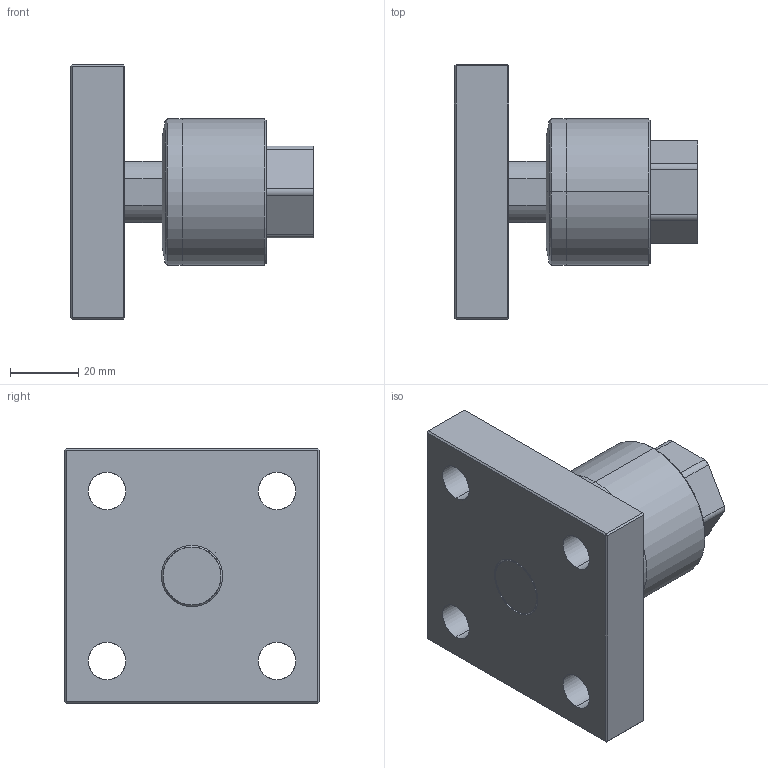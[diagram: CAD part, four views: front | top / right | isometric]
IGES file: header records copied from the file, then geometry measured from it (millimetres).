
Start section: SolidWorks IGES file using analytic representation for surfaces
Global section: file name: C:\Users\Toshiba\Desktop\FCM18A-1.5-F.IGS; native system: SolidWorks 2014; preprocessor: SolidWorks 2014; author: Toshiba; date: 160414.095847; units: millimetre
Bounding box: 71.5 x 75 x 75 mm (x, y, z)
Surface area: 28346.1 mm2 (no closed solid volume)
Topology: 0 solids, 0 shells, 82 faces, 942 edges, 940 vertices
Faces by surface type: bspline 44, revolution 38
